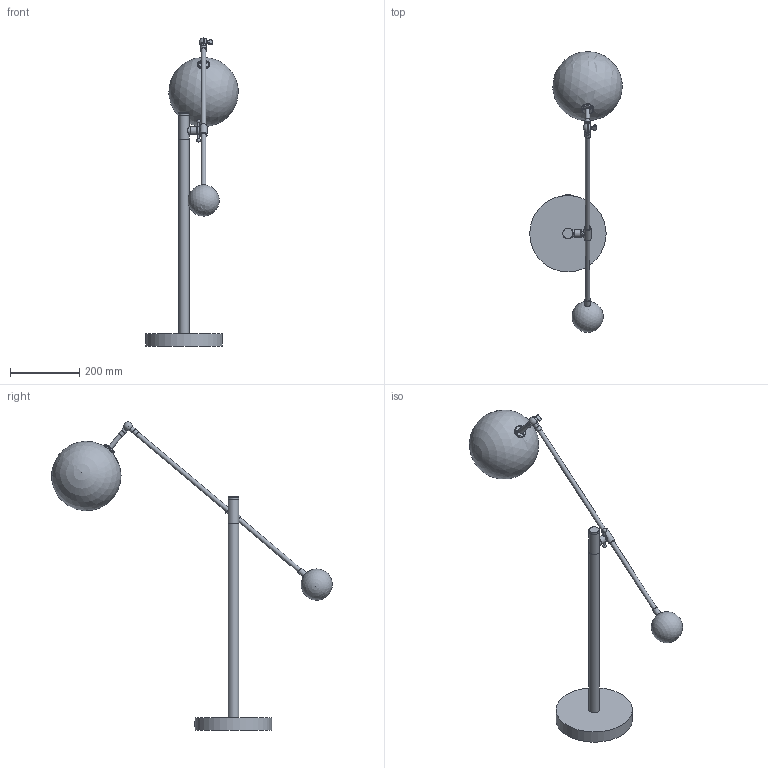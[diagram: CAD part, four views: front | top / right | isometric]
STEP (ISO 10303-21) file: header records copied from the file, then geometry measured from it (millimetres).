
FILE_DESCRIPTION(/* description */ (''),/* implementation_level */ '2;1');
FILE_NAME(/* name */ 'T:\B081 Milan Table Lamp\Pliki bryłowe handlowe\B081 Milan 1 Arm 3D files\B081 Milan 1 Arm.stp',/* time_stamp */ '2022-01-20T09:11:27+01:00',/* author */ ('Mariusz Awariusz'),/* organization */ (''),/* preprocessor_version */ 'ST-DEVELOPER v18.1',/* originating_system */ 'Autodesk Inventor 2022',/* authorisation */ '');
FILE_SCHEMA (('AUTOMOTIVE_DESIGN { 1 0 10303 214 3 1 1 }'));
Length unit declared in the file: millimetre
Products named in the file (1): B081 Milan Table Lamp CE V3_na potrzeby plików 3D_jako część
Bounding box: 266.5 x 807.61 x 887.01 mm (x, y, z)
Volume: 2575417.8 mm3; surface area: 474597 mm2
Topology: 1 solids, 2 shells, 170 faces, 414 edges, 261 vertices
Faces by surface type: cylinder 69, plane 53, cone 19, bspline 19, sphere 8, torus 2
Full cylindrical faces by diameter (mm): 3 x6, 4 x2, 5.5 x3, 8 x1, 10 x10, 11.6 x1, 13 x6, 15 x4, 16 x1, 16.6 x1, 18 x1, 20 x1, 22 x2, 30 x3, 33 x1, 35 x1
Entity records: 10132 total; most frequent: CARTESIAN_POINT 6308, ORIENTED_EDGE 808, DIRECTION 735, EDGE_CURVE 404, AXIS2_PLACEMENT_3D 313, VERTEX_POINT 261, EDGE_LOOP 207, FACE_OUTER_BOUND 170
